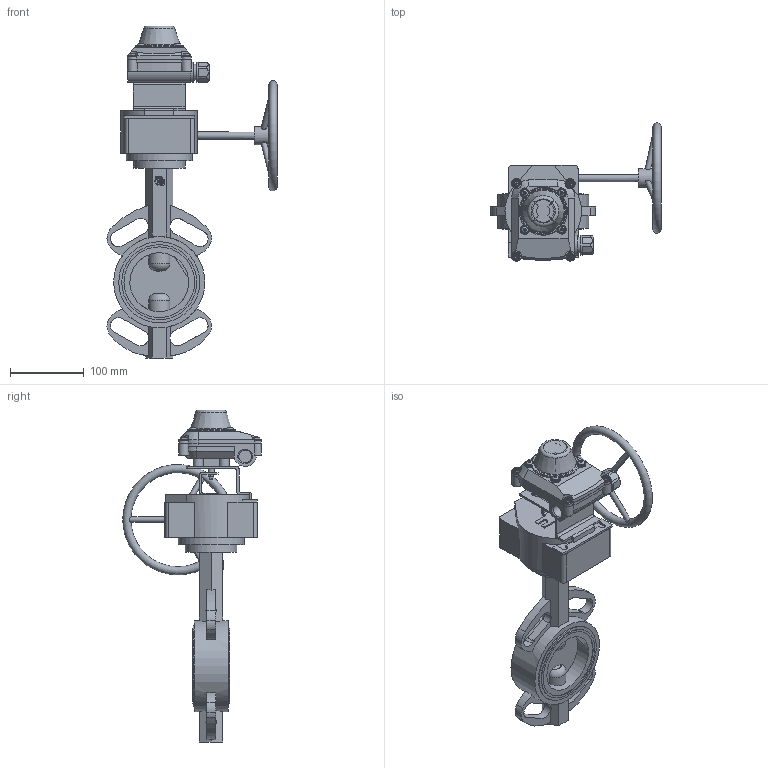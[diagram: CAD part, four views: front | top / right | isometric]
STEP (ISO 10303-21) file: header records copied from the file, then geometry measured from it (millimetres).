
FILE_DESCRIPTION(('STEP AP203'), '1');
FILE_NAME('3D_200-080-16-Ï.02', '', ('UNSPECIFIED'), ('UNSPECIFIED'), 'C3D Converter', 'C3D Toolkit', '');
FILE_SCHEMA(('CONFIG_CONTROL_DESIGN'));
Length unit declared in the file: millimetre
Bounding box: 231.05 x 187.99 x 451 mm (x, y, z)
Volume: 1778407.1 mm3; surface area: 274511.1 mm2
Topology: 4 solids, 8 shells, 1533 faces, 4405 edges, 2946 vertices
Faces by surface type: plane 1221, cylinder 189, torus 54, cone 45, bspline 24
Full cylindrical faces by diameter (mm): 4.917 x4, 6 x8, 7.368 x3, 8 x11, 10 x4, 10.026 x1, 13.5 x2, 14 x2, 16 x1, 17.294 x1, 18 x1, 22 x1, 25.064 x1, 27 x2, 32 x1, 61.5 x1, 70 x1, 80 x2, 90 x1, 96 x2, 102 x2, 110 x2, 124 x1
Entity records: 75183 total; most frequent: CARTESIAN_POINT 23027, ORIENTED_EDGE 8644, DIRECTION 7675, EDGE_CURVE 4322, LINE 3303, VECTOR 3303, VERTEX_POINT 2943, AXIS2_PLACEMENT_3D 2186
